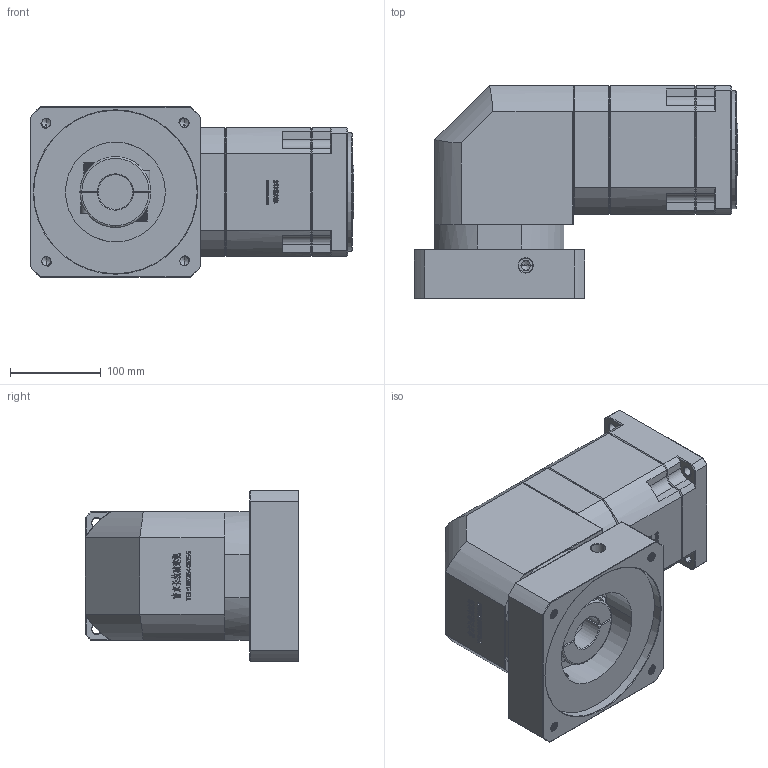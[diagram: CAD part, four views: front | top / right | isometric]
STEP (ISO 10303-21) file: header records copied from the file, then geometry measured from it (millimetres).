
FILE_DESCRIPTION (( 'STEP AP214' ), '1' );
FILE_NAME ('ZBR142A-K35-L3-38-180-215-M12.step', '2023-03-18T09:28:48', ( '' ), ( '' ), 'SwSTEP 2.0', 'SolidWorks 2016', '' );
FILE_SCHEMA (( 'AUTOMOTIVE_DESIGN' ));
Length unit declared in the file: millimetre
Products named in the file (1): ZBR142A-K35-L3-38-180-215-M12
Bounding box: 356.7 x 235 x 188 mm (x, y, z)
Volume: 7483670.1 mm3; surface area: 475939.1 mm2
Topology: 6 solids, 6 shells, 2857 faces, 7593 edges, 4884 vertices
Faces by surface type: plane 1545, bspline 585, cylinder 381, cone 326, torus 20
Entity records: 156184 total; most frequent: CARTESIAN_POINT 58197, ORIENTED_EDGE 15130, DIRECTION 11475, EDGE_CURVE 7565, VECTOR 5167, LINE 5167, VERTEX_POINT 4884, AXIS2_PLACEMENT_3D 3154
